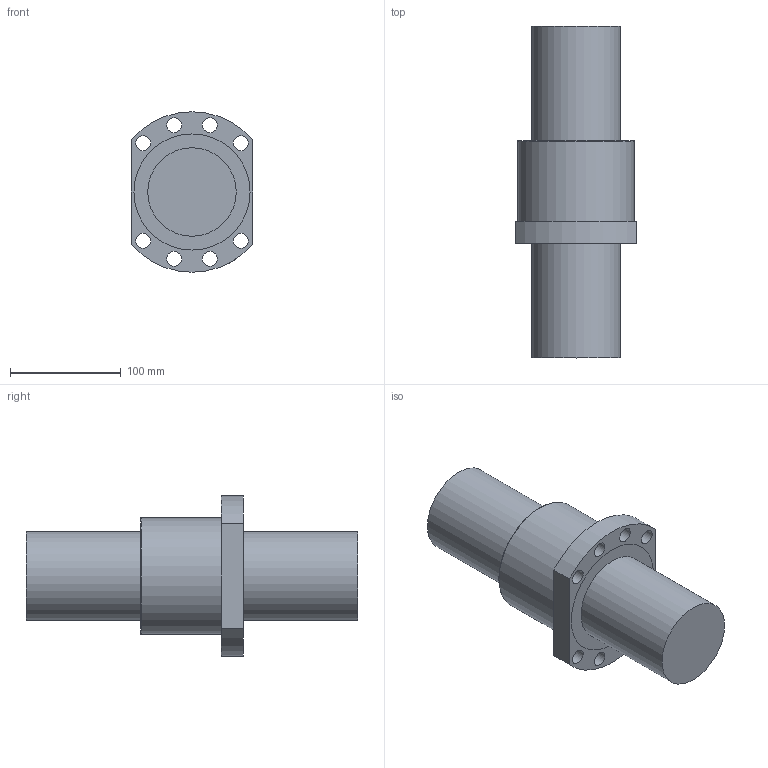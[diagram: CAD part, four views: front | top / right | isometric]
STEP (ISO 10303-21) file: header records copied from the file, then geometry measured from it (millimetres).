
FILE_DESCRIPTION (( 'STEP AP203' ), '1' );
FILE_NAME ('SFNU8010.STEP', '2023-08-17T00:31:07', ( '' ), ( '' ), 'SwSTEP 2.0', 'SolidWorks 2022', '' );
FILE_SCHEMA (( 'CONFIG_CONTROL_DESIGN' ));
Length unit declared in the file: millimetre
Products named in the file (1): SFNU8010
Bounding box: 110 x 300 x 145 mm (x, y, z)
Volume: 1934056.7 mm3; surface area: 182755.8 mm2
Topology: 4 solids, 4 shells, 34 faces, 77 edges, 54 vertices
Faces by surface type: cylinder 20, plane 13, torus 1
Full cylindrical faces by diameter (mm): 6.5 x1, 13.5 x8, 80 x4, 93 x2, 105 x3
Entity records: 1118 total; most frequent: CARTESIAN_POINT 324, DIRECTION 156, ORIENTED_EDGE 98, EDGE_LOOP 80, AXIS2_PLACEMENT_3D 74, FACE_OUTER_BOUND 53, EDGE_CURVE 49, VERTEX_POINT 45
